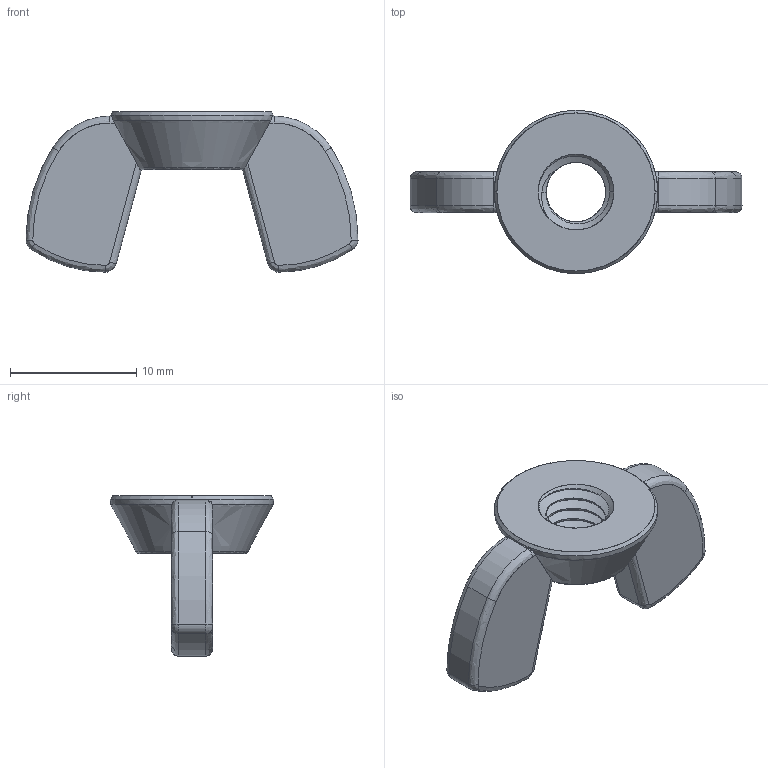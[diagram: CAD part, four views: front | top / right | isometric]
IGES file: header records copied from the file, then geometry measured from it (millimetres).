
Start section: SolidWorks IGES file using analytic representation for surfaces
Global section: file name: C:\Users\Home\Desktop\Wing Nuts Metric\WING NUT M6 x 1mm Thread.IGS; native system: SolidWorks 2014; preprocessor: SolidWorks 2014; author: Home; date: 170501.210053; units: millimetre
Bounding box: 26.3 x 12.96 x 12.7 mm (x, y, z)
Surface area: 894.1 mm2 (no closed solid volume)
Topology: 0 solids, 0 shells, 82 faces, 1144 edges, 1144 vertices
Faces by surface type: revolution 48, bspline 34
